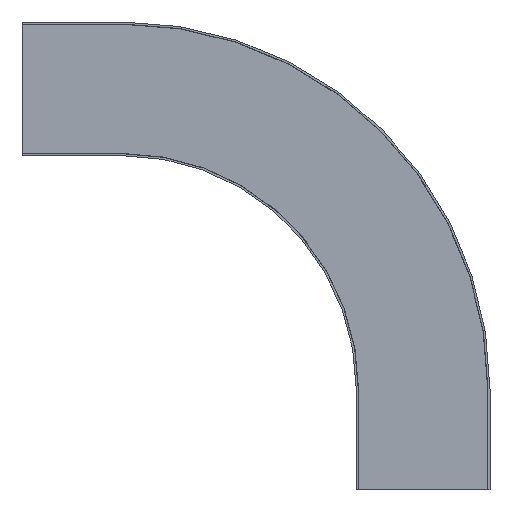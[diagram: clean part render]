
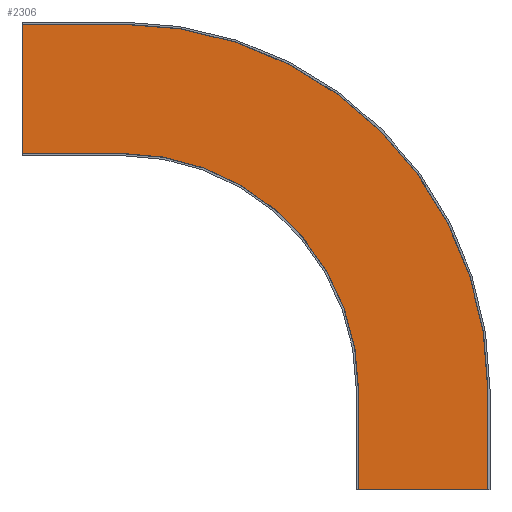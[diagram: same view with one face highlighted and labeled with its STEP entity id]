
A CAD part, front view. The second image highlights one B-rep face of the part: STEP entity #2306.
In plain terms, the highlighted planar face has unit normal (0, -1, 0).
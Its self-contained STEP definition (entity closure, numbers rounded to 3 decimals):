
#26 = VECTOR ( 'NONE', #331, 1000. ) ;
#48 = VERTEX_POINT ( 'NONE', #1376 ) ;
#307 = CARTESIAN_POINT ( 'NONE',  ( -96.65, -42., 150. ) ) ;
#321 = CARTESIAN_POINT ( 'NONE',  ( -450., -42., 696.65 ) ) ;
#331 = DIRECTION ( 'NONE',  ( -1., 0., 0. ) ) ;
#339 = EDGE_LOOP ( 'NONE', ( #645, #2592, #1128, #936, #1370, #939, #2968, #1817 ) ) ;
#344 = CARTESIAN_POINT ( 'NONE',  ( -450., -42., 696.65 ) ) ;
#494 = CARTESIAN_POINT ( 'NONE',  ( -600., -42., 696.65 ) ) ;
#496 = VERTEX_POINT ( 'NONE', #2708 ) ;
#554 = DIRECTION ( 'NONE',  ( 0., 0., -1. ) ) ;
#643 = EDGE_CURVE ( 'NONE', #496, #1708, #1516, .T. ) ;
#645 = ORIENTED_EDGE ( 'NONE', *, *, #2263, .F. ) ;
#650 = VECTOR ( 'NONE', #1353, 1000. ) ;
#688 = LINE ( 'NONE', #2079, #1347 ) ;
#850 = DIRECTION ( 'NONE',  ( 0., -1., 0. ) ) ;
#917 = LINE ( 'NONE', #1606, #2332 ) ;
#919 = LINE ( 'NONE', #2170, #1798 ) ;
#936 = ORIENTED_EDGE ( 'NONE', *, *, #2114, .T. ) ;
#939 = ORIENTED_EDGE ( 'NONE', *, *, #2280, .F. ) ;
#968 = DIRECTION ( 'NONE',  ( 0., 0., -1. ) ) ;
#1057 = VERTEX_POINT ( 'NONE', #1961 ) ;
#1085 = DIRECTION ( 'NONE',  ( 1., 0., 0. ) ) ;
#1128 = ORIENTED_EDGE ( 'NONE', *, *, #2078, .T. ) ;
#1235 = CIRCLE ( 'NONE', #1836, 353.35 ) ;
#1347 = VECTOR ( 'NONE', #3036, 1000. ) ;
#1353 = DIRECTION ( 'NONE',  ( -1., 0., 0. ) ) ;
#1364 = CARTESIAN_POINT ( 'NONE',  ( -450., -42., 503.35 ) ) ;
#1370 = ORIENTED_EDGE ( 'NONE', *, *, #2445, .T. ) ;
#1376 = CARTESIAN_POINT ( 'NONE',  ( -600., -42., 503.35 ) ) ;
#1385 = CARTESIAN_POINT ( 'NONE',  ( -450., -42., 150. ) ) ;
#1421 = DIRECTION ( 'NONE',  ( 0., 0., -1. ) ) ;
#1436 = CARTESIAN_POINT ( 'NONE',  ( -96.65, -42., 0. ) ) ;
#1516 = LINE ( 'NONE', #307, #2990 ) ;
#1570 = FACE_OUTER_BOUND ( 'NONE', #339, .T. ) ;
#1606 = CARTESIAN_POINT ( 'NONE',  ( -600., -42., 503.35 ) ) ;
#1625 = DIRECTION ( 'NONE',  ( 0., -1., 0. ) ) ;
#1705 = VERTEX_POINT ( 'NONE', #2174 ) ;
#1708 = VERTEX_POINT ( 'NONE', #1436 ) ;
#1798 = VECTOR ( 'NONE', #968, 1000. ) ;
#1815 = PLANE ( 'NONE',  #2249 ) ;
#1817 = ORIENTED_EDGE ( 'NONE', *, *, #643, .T. ) ;
#1836 = AXIS2_PLACEMENT_3D ( 'NONE', #1385, #1625, #2090 ) ;
#1874 = DIRECTION ( 'NONE',  ( 0., 0., -1. ) ) ;
#1961 = CARTESIAN_POINT ( 'NONE',  ( -450., -42., 503.35 ) ) ;
#1974 = EDGE_CURVE ( 'NONE', #496, #1057, #1235, .T. ) ;
#1998 = CIRCLE ( 'NONE', #3015, 546.65 ) ;
#2027 = DIRECTION ( 'NONE',  ( 0., -1., 0. ) ) ;
#2053 = EDGE_CURVE ( 'NONE', #1705, #2243, #919, .T. ) ;
#2078 = EDGE_CURVE ( 'Edge18', #1705, #2327, #1998, .T. ) ;
#2079 = CARTESIAN_POINT ( 'NONE',  ( -96.65, -42., 0. ) ) ;
#2090 = DIRECTION ( 'NONE',  ( 0., 0., -1. ) ) ;
#2105 = CARTESIAN_POINT ( 'NONE',  ( 96.65, -42., 0. ) ) ;
#2114 = EDGE_CURVE ( 'Edge42', #2327, #2626, #2604, .T. ) ;
#2170 = CARTESIAN_POINT ( 'NONE',  ( 96.65, -42., 150. ) ) ;
#2174 = CARTESIAN_POINT ( 'NONE',  ( 96.65, -42., 150. ) ) ;
#2243 = VERTEX_POINT ( 'NONE', #2105 ) ;
#2249 = AXIS2_PLACEMENT_3D ( 'NONE', #3056, #850, #1085 ) ;
#2263 = EDGE_CURVE ( 'NONE', #2243, #1708, #688, .T. ) ;
#2280 = EDGE_CURVE ( 'NONE', #1057, #48, #2599, .T. ) ;
#2306 = ADVANCED_FACE ( 'NONE', ( #1570 ), #1815, .T. ) ;
#2327 = VERTEX_POINT ( 'NONE', #344 ) ;
#2332 = VECTOR ( 'NONE', #1874, 1000. ) ;
#2445 = EDGE_CURVE ( 'NONE', #2626, #48, #917, .T. ) ;
#2592 = ORIENTED_EDGE ( 'NONE', *, *, #2053, .F. ) ;
#2599 = LINE ( 'NONE', #1364, #650 ) ;
#2604 = LINE ( 'NONE', #321, #26 ) ;
#2626 = VERTEX_POINT ( 'NONE', #494 ) ;
#2708 = CARTESIAN_POINT ( 'NONE',  ( -96.65, -42., 150. ) ) ;
#2968 = ORIENTED_EDGE ( 'NONE', *, *, #1974, .F. ) ;
#2979 = CARTESIAN_POINT ( 'NONE',  ( -450., -42., 150. ) ) ;
#2990 = VECTOR ( 'NONE', #554, 1000. ) ;
#3015 = AXIS2_PLACEMENT_3D ( 'NONE', #2979, #2027, #1421 ) ;
#3036 = DIRECTION ( 'NONE',  ( -1., 0., 0. ) ) ;
#3056 = CARTESIAN_POINT ( 'NONE',  ( -96.65, -42., 150. ) ) ;
